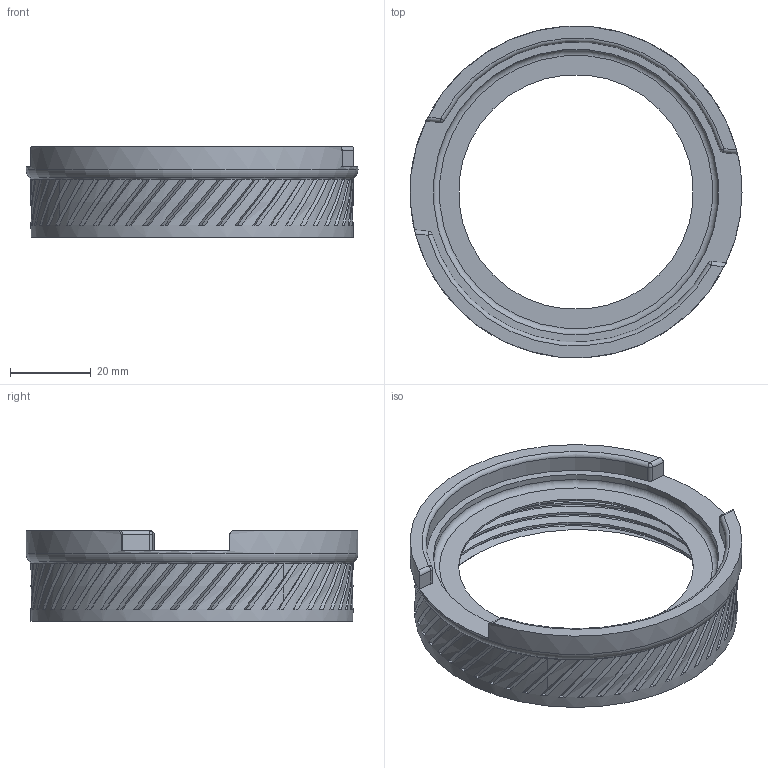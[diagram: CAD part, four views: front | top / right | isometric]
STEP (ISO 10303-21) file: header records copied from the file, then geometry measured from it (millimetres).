
FILE_DESCRIPTION(/* description */ ('STEP AP242','CAx-IF Rec.Pracs.---Representation and Presentation of Product Manufacturing Information (PMI)---4.0---2014-10-13','CAx-IF Rec.Pracs.---3D Tessellated Geometry---0.4---2014-09-14','2;1'),/* implementation_level */ '2;1');
FILE_NAME(/* name */ '6469286dcac4670533c2176d',/* time_stamp */ '2023-05-20T20:07:09Z',/* author */ (''),/* organization */ (''),/* preprocessor_version */ 'ST-DEVELOPER v19.4',/* originating_system */ ' ',/* authorisation */ ' ');
FILE_SCHEMA (('AP242_MANAGED_MODEL_BASED_3D_ENGINEERING_MIM_LF { 1 0 10303 442 1 1 4 }'));
Length unit declared in the file: metre
Products named in the file (1): Base 30mm NoMagnet Lug
Bounding box: 82 x 82 x 22.4 mm (x, y, z)
Volume: 23221.3 mm3; surface area: 16473.9 mm2
Topology: 1 solids, 1 shells, 304 faces, 777 edges, 475 vertices
Faces by surface type: bspline 150, plane 124, cylinder 17, cone 5, torus 4, sphere 4
Full cylindrical faces by diameter (mm): 58 x1, 70.5 x1, 79.6 x1, 82 x1
Entity records: 15228 total; most frequent: CARTESIAN_POINT 9557, ORIENTED_EDGE 1508, DIRECTION 775, EDGE_CURVE 754, VERTEX_POINT 466, AXIS2_PLACEMENT_3D 353, B_SPLINE_CURVE_WITH_KNOTS 323, EDGE_LOOP 316
